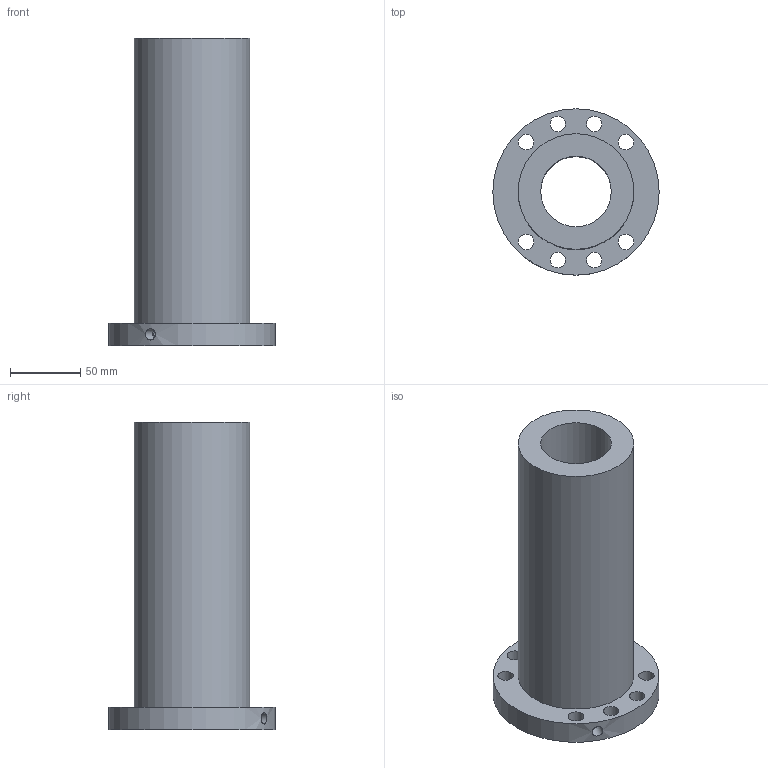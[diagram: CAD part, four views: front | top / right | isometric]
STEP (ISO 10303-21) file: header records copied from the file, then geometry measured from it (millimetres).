
FILE_DESCRIPTION(/* description */ (''),/* implementation_level */ '2;1');
FILE_NAME(/* name */ '50-20K4_635',/* time_stamp */ '2007-10-15T12:53:54+08:00',/* author */ (''),/* organization */ (''),/* preprocessor_version */ 'ST-DEVELOPER v11',/* originating_system */ 'UGS - NX 5.0',/* authorisation */ '');
FILE_SCHEMA (('CONFIG_CONTROL_DESIGN'));
Length unit declared in the file: millimetre
Products named in the file (1): 50-20K4_635
Bounding box: 118 x 118 x 218 mm (x, y, z)
Volume: 800353.2 mm3; surface area: 113706.8 mm2
Topology: 1 solids, 1 shells, 17 faces, 40 edges, 27 vertices
Faces by surface type: cylinder 13, plane 4
Full cylindrical faces by diameter (mm): 6 x1, 8 x1, 11 x8, 50 x1, 82 x1, 118 x1
Entity records: 668 total; most frequent: CARTESIAN_POINT 184, DIRECTION 84, FACE_BOUND 52, EDGE_LOOP 52, ORIENTED_EDGE 52, AXIS2_PLACEMENT_3D 42, VERTEX_POINT 26, EDGE_CURVE 26
